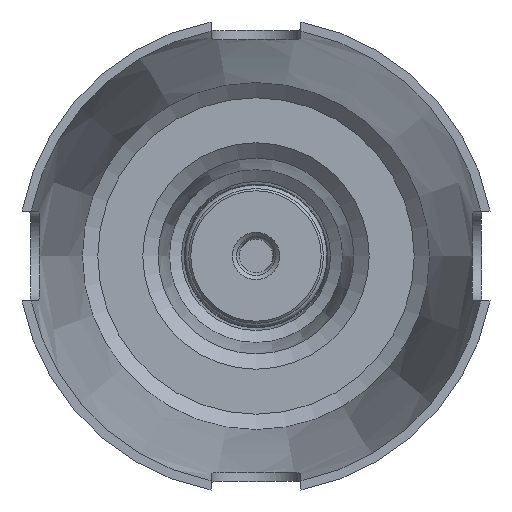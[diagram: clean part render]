
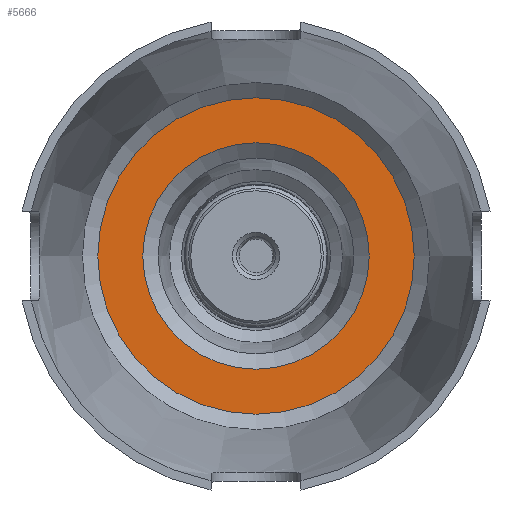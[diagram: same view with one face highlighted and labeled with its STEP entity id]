
A CAD part, front view. The second image highlights one B-rep face of the part: STEP entity #5666.
In plain terms, the highlighted planar face has unit normal (0, -1, 0).
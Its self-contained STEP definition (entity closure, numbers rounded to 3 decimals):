
#525=FACE_BOUND('',#2036,.T.);
#665=PLANE('',#6022);
#1674=FACE_OUTER_BOUND('',#2035,.T.);
#2035=EDGE_LOOP('',(#4950));
#2036=EDGE_LOOP('',(#4951));
#2169=CIRCLE('',#6021,35.191);
#2170=CIRCLE('',#6023,25.18);
#2685=VERTEX_POINT('',#11161);
#2686=VERTEX_POINT('',#11165);
#3455=EDGE_CURVE('',#2685,#2685,#2169,.T.);
#3457=EDGE_CURVE('',#2686,#2686,#2170,.T.);
#4950=ORIENTED_EDGE('',*,*,#3455,.F.);
#4951=ORIENTED_EDGE('',*,*,#3457,.F.);
#5666=ADVANCED_FACE('',(#1674,#525),#665,.F.);
#6021=AXIS2_PLACEMENT_3D('',#11162,#6993,#6994);
#6022=AXIS2_PLACEMENT_3D('',#11164,#6996,#6997);
#6023=AXIS2_PLACEMENT_3D('',#11166,#6998,#6999);
#6993=DIRECTION('center_axis',(0.,1.,0.));
#6994=DIRECTION('ref_axis',(1.,0.,0.));
#6996=DIRECTION('center_axis',(0.,1.,0.));
#6997=DIRECTION('ref_axis',(0.,0.,1.));
#6998=DIRECTION('center_axis',(0.,-1.,0.));
#6999=DIRECTION('ref_axis',(1.,0.,0.));
#11161=CARTESIAN_POINT('',(-35.191,47.5,0.));
#11162=CARTESIAN_POINT('Origin',(0.,47.5,0.));
#11164=CARTESIAN_POINT('Origin',(-38.191,47.5,0.));
#11165=CARTESIAN_POINT('',(-25.18,47.5,0.));
#11166=CARTESIAN_POINT('Origin',(0.,47.5,0.));
